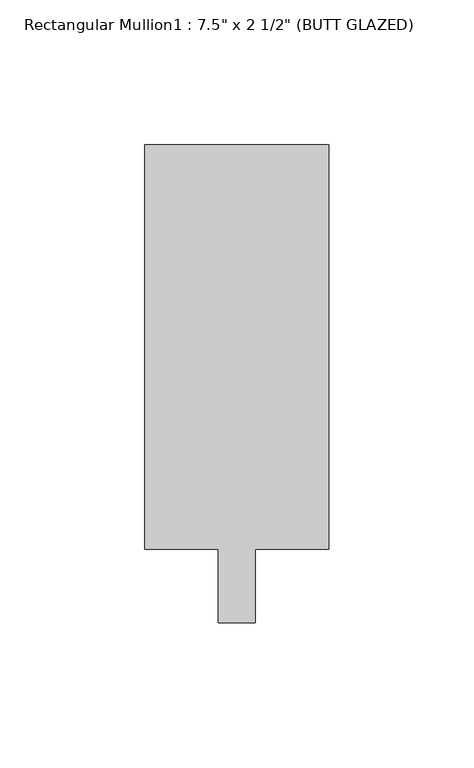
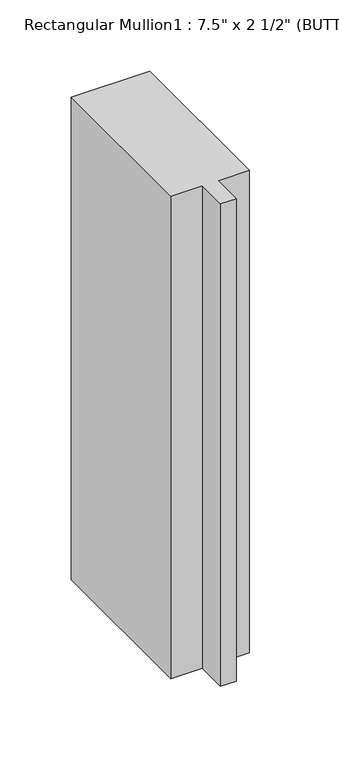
"""IFC4 building model written with IfcOpenShell, lengths in millimetres: member geometry."""

from ifc_helpers import new_model, si_unit, frame, origin, place, context, project, spatial, polyline, outline, extrude, source, transform, mapped, element, save


def member_bc67cdb6(model_context):
    return source(origin(), model_context, "Body", "SweptSolid", [
        extrude(outline(polyline([(31.75, 165.1), (31.75, 25.4), (6.35, 25.4), (6.35, 0.0), (-6.35, 0.0), (-6.35, 25.4), (-31.75, 25.4), (-31.75, 165.1), (31.75, 165.1)])), frame((0.0, 0.0, -412.7499976), z_axis=(0.0, 0.0, 1.0), x_axis=(1.0, 0.0, 0.0)), (0.0, 0.0, 1.0), 412.7499976),
    ])


if __name__ == "__main__":
    model = new_model("IFC4")
    model_context = context("Model", 3, world=origin())
    ifc_project = project(units=[si_unit("LENGTHUNIT", "METRE", prefix="MILLI")], contexts=[model_context])
    site = spatial("IfcSite", under=ifc_project)
    building = spatial("IfcBuilding", under=site)
    placement = place(None, origin())
    member_shape = member_bc67cdb6(model_context)
    element("IfcMember", 1, ObjectType="Rectangular Mullion1 : 7.5\" x 2 1/2\" (BUTT GLAZED)", at=placement, inside=building, context=model_context, shape_type="MappedRepresentation", body=[
        mapped(member_shape, transform((0.0, 0.0, 0.0), x_axis=(1.0, 0.0, 0.0), y_axis=(0.0, 1.0, 0.0), z_axis=(0.0, 0.0, 1.0))),
    ])
    save(model, "model.ifc")
